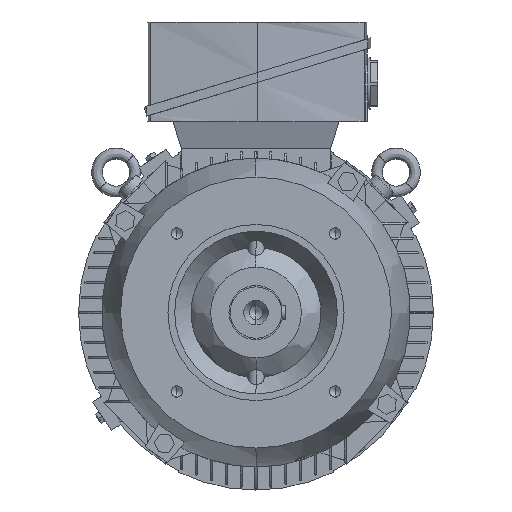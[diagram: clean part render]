
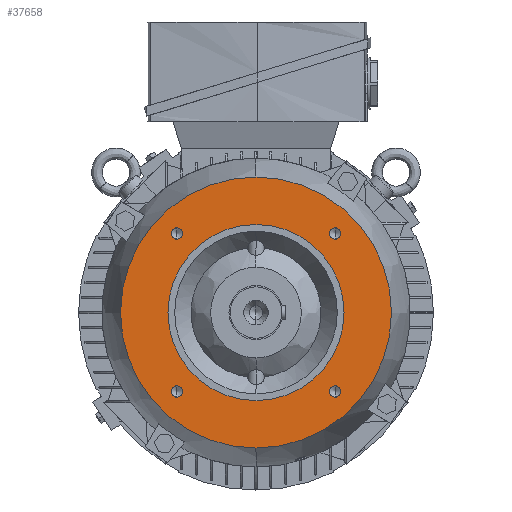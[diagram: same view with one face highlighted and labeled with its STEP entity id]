
A CAD part, left-side view. The second image highlights one B-rep face of the part: STEP entity #37658.
In plain terms, the highlighted planar face has unit normal (-1, 0, 0).
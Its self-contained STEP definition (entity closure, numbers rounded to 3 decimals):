
#380 = AXIS2_PLACEMENT_3D ( 'NONE', #35015, #34952, #34864 ) ;
#1647 = DIRECTION ( 'NONE',  ( 0., 0., 1. ) ) ;
#1657 = DIRECTION ( 'NONE',  ( -1., 0., 0. ) ) ;
#1711 = CARTESIAN_POINT ( 'NONE',  ( -50.5, 0., 82.5 ) ) ;
#1750 = AXIS2_PLACEMENT_3D ( 'NONE', #39567, #39649, #39756 ) ;
#2985 = AXIS2_PLACEMENT_3D ( 'NONE', #17379, #17371, #17313 ) ;
#3064 = EDGE_CURVE ( 'NONE', #43923, #6538, #34728, .T. ) ;
#3257 = PLANE ( 'NONE',  #21086 ) ;
#4743 = ORIENTED_EDGE ( 'NONE', *, *, #3064, .T. ) ;
#4886 = VERTEX_POINT ( 'NONE', #41742 ) ;
#5180 = EDGE_CURVE ( 'NONE', #24046, #31317, #45000, .T. ) ;
#5327 = AXIS2_PLACEMENT_3D ( 'NONE', #16853, #16760, #16705 ) ;
#6064 = AXIS2_PLACEMENT_3D ( 'NONE', #32875, #32706, #32659 ) ;
#6538 = VERTEX_POINT ( 'NONE', #35423 ) ;
#7576 = EDGE_CURVE ( 'NONE', #17735, #23700, #31968, .T. ) ;
#7670 = CARTESIAN_POINT ( 'NONE',  ( -50.5, -58.336, -54.146 ) ) ;
#7846 = FACE_BOUND ( 'NONE', #40939, .T. ) ;
#7853 = FACE_BOUND ( 'NONE', #41124, .T. ) ;
#7893 = FACE_BOUND ( 'NONE', #21786, .T. ) ;
#7907 = FACE_BOUND ( 'NONE', #35581, .T. ) ;
#7996 = FACE_OUTER_BOUND ( 'NONE', #39201, .T. ) ;
#8136 = FACE_BOUND ( 'NONE', #39428, .T. ) ;
#9164 = AXIS2_PLACEMENT_3D ( 'NONE', #43504, #43417, #43370 ) ;
#9387 = AXIS2_PLACEMENT_3D ( 'NONE', #9920, #9960, #10063 ) ;
#9920 = CARTESIAN_POINT ( 'NONE',  ( -50.5, 0., 0. ) ) ;
#9960 = DIRECTION ( 'NONE',  ( 1., 0., 0. ) ) ;
#10063 = DIRECTION ( 'NONE',  ( 0., 0., 1. ) ) ;
#10591 = VERTEX_POINT ( 'NONE', #11204 ) ;
#11204 = CARTESIAN_POINT ( 'NONE',  ( -50.5, 0., 65. ) ) ;
#12157 = VERTEX_POINT ( 'NONE', #25930 ) ;
#12602 = CIRCLE ( 'NONE', #41671, 65. ) ;
#14205 = VERTEX_POINT ( 'NONE', #23048 ) ;
#16705 = DIRECTION ( 'NONE',  ( 0., 0., -1. ) ) ;
#16760 = DIRECTION ( 'NONE',  ( 1., 0., 0. ) ) ;
#16853 = CARTESIAN_POINT ( 'NONE',  ( -50.5, 58.336, -58.336 ) ) ;
#16854 = EDGE_CURVE ( 'NONE', #10591, #12157, #22782, .T. ) ;
#17313 = DIRECTION ( 'NONE',  ( 0., 0., -1. ) ) ;
#17371 = DIRECTION ( 'NONE',  ( 1., 0., 0. ) ) ;
#17379 = CARTESIAN_POINT ( 'NONE',  ( -50.5, -58.336, 58.336 ) ) ;
#17735 = VERTEX_POINT ( 'NONE', #36004 ) ;
#18198 = CARTESIAN_POINT ( 'NONE',  ( -50.5, 0., -100. ) ) ;
#18321 = AXIS2_PLACEMENT_3D ( 'NONE', #19003, #18916, #18865 ) ;
#18865 = DIRECTION ( 'NONE',  ( 0., 0., -1. ) ) ;
#18916 = DIRECTION ( 'NONE',  ( 1., 0., 0. ) ) ;
#19003 = CARTESIAN_POINT ( 'NONE',  ( -50.5, 58.336, 58.336 ) ) ;
#19978 = CIRCLE ( 'NONE', #380, 4.19 ) ;
#21086 = AXIS2_PLACEMENT_3D ( 'NONE', #1711, #1657, #1647 ) ;
#21786 = EDGE_LOOP ( 'NONE', ( #28226, #25056 ) ) ;
#22286 = EDGE_CURVE ( 'NONE', #6538, #43923, #35564, .T. ) ;
#22782 = CIRCLE ( 'NONE', #9387, 65. ) ;
#22927 = CARTESIAN_POINT ( 'NONE',  ( -50.5, -58.336, 54.146 ) ) ;
#23048 = CARTESIAN_POINT ( 'NONE',  ( -50.5, 58.336, 62.526 ) ) ;
#23069 = EDGE_CURVE ( 'NONE', #14205, #4886, #19978, .T. ) ;
#23601 = AXIS2_PLACEMENT_3D ( 'NONE', #45102, #45092, #45010 ) ;
#23700 = VERTEX_POINT ( 'NONE', #18198 ) ;
#24046 = VERTEX_POINT ( 'NONE', #7670 ) ;
#25056 = ORIENTED_EDGE ( 'NONE', *, *, #23069, .T. ) ;
#25687 = ORIENTED_EDGE ( 'NONE', *, *, #45544, .F. ) ;
#25697 = EDGE_CURVE ( 'NONE', #35672, #25867, #27374, .T. ) ;
#25867 = VERTEX_POINT ( 'NONE', #40465 ) ;
#25930 = CARTESIAN_POINT ( 'NONE',  ( -50.5, 0., -65. ) ) ;
#26615 = EDGE_CURVE ( 'NONE', #25867, #35672, #34739, .T. ) ;
#27374 = CIRCLE ( 'NONE', #9164, 4.19 ) ;
#27630 = ORIENTED_EDGE ( 'NONE', *, *, #16854, .T. ) ;
#28027 = EDGE_CURVE ( 'NONE', #12157, #10591, #12602, .T. ) ;
#28226 = ORIENTED_EDGE ( 'NONE', *, *, #39424, .T. ) ;
#29043 = CARTESIAN_POINT ( 'NONE',  ( -50.5, -58.336, -62.526 ) ) ;
#30001 = ORIENTED_EDGE ( 'NONE', *, *, #28027, .T. ) ;
#30585 = CARTESIAN_POINT ( 'NONE',  ( -50.5, 0., 0. ) ) ;
#30650 = DIRECTION ( 'NONE',  ( 1., 0., 0. ) ) ;
#30691 = DIRECTION ( 'NONE',  ( 0., 0., 1. ) ) ;
#30790 = EDGE_CURVE ( 'NONE', #31317, #24046, #37404, .T. ) ;
#31113 = ORIENTED_EDGE ( 'NONE', *, *, #7576, .F. ) ;
#31317 = VERTEX_POINT ( 'NONE', #29043 ) ;
#31949 = DIRECTION ( 'NONE',  ( 0., 0., -1. ) ) ;
#31956 = DIRECTION ( 'NONE',  ( 1., 0., 0. ) ) ;
#31968 = CIRCLE ( 'NONE', #23601, 100. ) ;
#32018 = CARTESIAN_POINT ( 'NONE',  ( -50.5, -58.336, -58.336 ) ) ;
#32659 = DIRECTION ( 'NONE',  ( 0., 0., -1. ) ) ;
#32706 = DIRECTION ( 'NONE',  ( 1., 0., 0. ) ) ;
#32875 = CARTESIAN_POINT ( 'NONE',  ( -50.5, 0., 0. ) ) ;
#33044 = ORIENTED_EDGE ( 'NONE', *, *, #26615, .T. ) ;
#33384 = ORIENTED_EDGE ( 'NONE', *, *, #30790, .T. ) ;
#33727 = CIRCLE ( 'NONE', #6064, 100. ) ;
#34728 = CIRCLE ( 'NONE', #2985, 4.19 ) ;
#34739 = CIRCLE ( 'NONE', #5327, 4.19 ) ;
#34864 = DIRECTION ( 'NONE',  ( 0., 0., -1. ) ) ;
#34952 = DIRECTION ( 'NONE',  ( 1., 0., 0. ) ) ;
#35015 = CARTESIAN_POINT ( 'NONE',  ( -50.5, 58.336, 58.336 ) ) ;
#35228 = AXIS2_PLACEMENT_3D ( 'NONE', #44045, #44102, #44149 ) ;
#35423 = CARTESIAN_POINT ( 'NONE',  ( -50.5, -58.336, 62.526 ) ) ;
#35564 = CIRCLE ( 'NONE', #1750, 4.19 ) ;
#35581 = EDGE_LOOP ( 'NONE', ( #33044, #40037 ) ) ;
#35672 = VERTEX_POINT ( 'NONE', #42493 ) ;
#36004 = CARTESIAN_POINT ( 'NONE',  ( -50.5, 0., 100. ) ) ;
#37404 = CIRCLE ( 'NONE', #35228, 4.19 ) ;
#37658 = ADVANCED_FACE ( 'NONE', ( #8136, #7996, #7893, #7907, #7853, #7846 ), #3257, .T. ) ;
#38406 = ORIENTED_EDGE ( 'NONE', *, *, #5180, .T. ) ;
#39201 = EDGE_LOOP ( 'NONE', ( #25687, #31113 ) ) ;
#39424 = EDGE_CURVE ( 'NONE', #4886, #14205, #46031, .T. ) ;
#39428 = EDGE_LOOP ( 'NONE', ( #27630, #30001 ) ) ;
#39567 = CARTESIAN_POINT ( 'NONE',  ( -50.5, -58.336, 58.336 ) ) ;
#39649 = DIRECTION ( 'NONE',  ( 1., 0., 0. ) ) ;
#39756 = DIRECTION ( 'NONE',  ( 0., 0., -1. ) ) ;
#40037 = ORIENTED_EDGE ( 'NONE', *, *, #25697, .T. ) ;
#40465 = CARTESIAN_POINT ( 'NONE',  ( -50.5, 58.336, -62.526 ) ) ;
#40939 = EDGE_LOOP ( 'NONE', ( #4743, #42478 ) ) ;
#41124 = EDGE_LOOP ( 'NONE', ( #33384, #38406 ) ) ;
#41671 = AXIS2_PLACEMENT_3D ( 'NONE', #30585, #30650, #30691 ) ;
#41742 = CARTESIAN_POINT ( 'NONE',  ( -50.5, 58.336, 54.146 ) ) ;
#42478 = ORIENTED_EDGE ( 'NONE', *, *, #22286, .T. ) ;
#42493 = CARTESIAN_POINT ( 'NONE',  ( -50.5, 58.336, -54.146 ) ) ;
#43370 = DIRECTION ( 'NONE',  ( 0., 0., -1. ) ) ;
#43417 = DIRECTION ( 'NONE',  ( 1., 0., 0. ) ) ;
#43504 = CARTESIAN_POINT ( 'NONE',  ( -50.5, 58.336, -58.336 ) ) ;
#43923 = VERTEX_POINT ( 'NONE', #22927 ) ;
#44045 = CARTESIAN_POINT ( 'NONE',  ( -50.5, -58.336, -58.336 ) ) ;
#44102 = DIRECTION ( 'NONE',  ( 1., 0., 0. ) ) ;
#44149 = DIRECTION ( 'NONE',  ( 0., 0., -1. ) ) ;
#45000 = CIRCLE ( 'NONE', #45516, 4.19 ) ;
#45010 = DIRECTION ( 'NONE',  ( 0., 0., -1. ) ) ;
#45092 = DIRECTION ( 'NONE',  ( 1., 0., 0. ) ) ;
#45102 = CARTESIAN_POINT ( 'NONE',  ( -50.5, 0., 0. ) ) ;
#45516 = AXIS2_PLACEMENT_3D ( 'NONE', #32018, #31956, #31949 ) ;
#45544 = EDGE_CURVE ( 'NONE', #23700, #17735, #33727, .T. ) ;
#46031 = CIRCLE ( 'NONE', #18321, 4.19 ) ;
